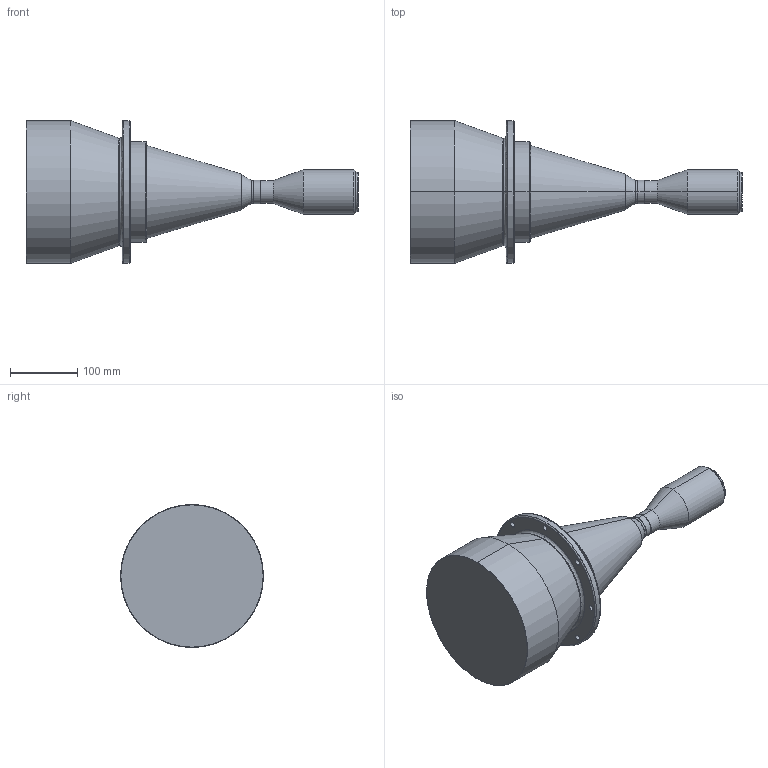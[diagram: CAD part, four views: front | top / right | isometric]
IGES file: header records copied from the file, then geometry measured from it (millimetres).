
Start section: SolidWorks IGES file using analytic representation for surfaces
Global section: file name: D:\苳柈隴\sw\DTCM\DTCM71M\M58\DTCM71M-170-M58-AL\DTCM71M-170-M58-AL.IGS,15; native system: HSolidWorks 2017; preprocessor: SolidWorks 2017; author: Administrator; date: 191119.162130; units: millimetre
Bounding box: 493.1 x 212 x 212 mm (x, y, z)
Surface area: 258395.2 mm2 (no closed solid volume)
Topology: 0 solids, 0 shells, 70 faces, 1904 edges, 1904 vertices
Faces by surface type: revolution 48, bspline 22
